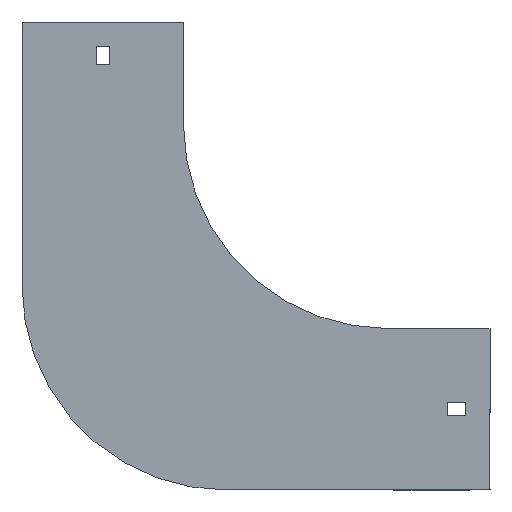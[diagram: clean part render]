
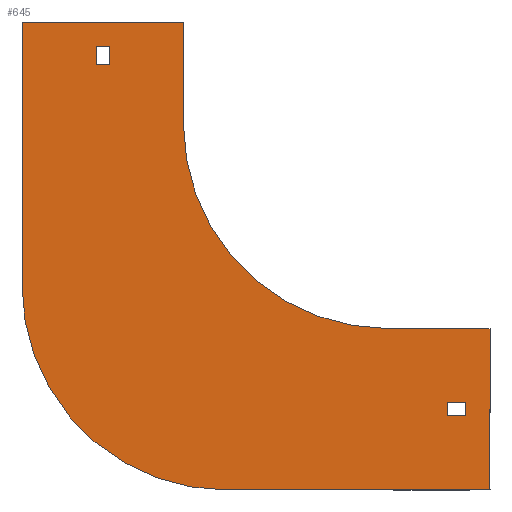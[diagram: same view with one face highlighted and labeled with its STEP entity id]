
A CAD part, front view. The second image highlights one B-rep face of the part: STEP entity #645.
In plain terms, the highlighted planar face has unit normal (0, -1, 0).
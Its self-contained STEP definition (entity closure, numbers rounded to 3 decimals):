
#20 = EDGE_CURVE ( 'NONE', #1036, #619, #1319, .T. ) ;
#39 = EDGE_CURVE ( 'NONE', #1360, #575, #488, .T. ) ;
#42 = CARTESIAN_POINT ( 'NONE',  ( -136.25, 0., 38. ) ) ;
#58 = EDGE_LOOP ( 'NONE', ( #970, #1779, #779, #1566, #672, #1644, #254, #1487 ) ) ;
#64 = ORIENTED_EDGE ( 'NONE', *, *, #295, .F. ) ;
#75 = PLANE ( 'NONE',  #1264 ) ;
#83 = FACE_BOUND ( 'NONE', #664, .T. ) ;
#88 = LINE ( 'NONE', #1423, #709 ) ;
#93 = AXIS2_PLACEMENT_3D ( 'NONE', #835, #1887, #1896 ) ;
#170 = EDGE_CURVE ( 'NONE', #1348, #888, #1445, .T. ) ;
#219 = CARTESIAN_POINT ( 'NONE',  ( 29., 0., -142.75 ) ) ;
#228 = EDGE_CURVE ( 'NONE', #619, #1009, #1726, .T. ) ;
#229 = FACE_OUTER_BOUND ( 'NONE', #58, .T. ) ;
#236 = EDGE_CURVE ( 'NONE', #521, #401, #1171, .T. ) ;
#254 = ORIENTED_EDGE ( 'NONE', *, *, #39, .F. ) ;
#261 = DIRECTION ( 'NONE',  ( 0., 0., -1. ) ) ;
#262 = VERTEX_POINT ( 'NONE', #1432 ) ;
#283 = VECTOR ( 'NONE', #315, 1000. ) ;
#295 = EDGE_CURVE ( 'NONE', #642, #262, #88, .T. ) ;
#315 = DIRECTION ( 'NONE',  ( -1., 0., 0. ) ) ;
#331 = DIRECTION ( 'NONE',  ( -1., 0., 0. ) ) ;
#340 = VECTOR ( 'NONE', #261, 1000. ) ;
#379 = DIRECTION ( 'NONE',  ( 0., 0., -1. ) ) ;
#396 = DIRECTION ( 'NONE',  ( 1., 0., 0. ) ) ;
#401 = VERTEX_POINT ( 'NONE', #1347 ) ;
#432 = VECTOR ( 'NONE', #1441, 1000. ) ;
#440 = CARTESIAN_POINT ( 'NONE',  ( -142.75, 0., 38. ) ) ;
#446 = LINE ( 'NONE', #1641, #1304 ) ;
#448 = VECTOR ( 'NONE', #1816, 1000. ) ;
#462 = CARTESIAN_POINT ( 'NONE',  ( -100., 0., 50. ) ) ;
#480 = ORIENTED_EDGE ( 'NONE', *, *, #916, .T. ) ;
#488 = CIRCLE ( 'NONE', #1551, 100. ) ;
#501 = ORIENTED_EDGE ( 'NONE', *, *, #1671, .T. ) ;
#521 = VERTEX_POINT ( 'NONE', #1215 ) ;
#527 = CARTESIAN_POINT ( 'NONE',  ( 38., 0., -136.25 ) ) ;
#533 = DIRECTION ( 'NONE',  ( -1., 0., 0. ) ) ;
#575 = VERTEX_POINT ( 'NONE', #1814 ) ;
#578 = ORIENTED_EDGE ( 'NONE', *, *, #20, .T. ) ;
#619 = VERTEX_POINT ( 'NONE', #42 ) ;
#630 = CARTESIAN_POINT ( 'NONE',  ( 50., 0., -100. ) ) ;
#632 = EDGE_CURVE ( 'NONE', #401, #1219, #1518, .T. ) ;
#633 = LINE ( 'NONE', #785, #1365 ) ;
#635 = CARTESIAN_POINT ( 'NONE',  ( -179., 0., -79. ) ) ;
#642 = VERTEX_POINT ( 'NONE', #219 ) ;
#645 = ADVANCED_FACE ( 'NONE', ( #83, #229, #1731 ), #75, .T. ) ;
#664 = EDGE_LOOP ( 'NONE', ( #501, #578, #1101, #480 ) ) ;
#672 = ORIENTED_EDGE ( 'NONE', *, *, #170, .F. ) ;
#709 = VECTOR ( 'NONE', #1716, 1000. ) ;
#717 = EDGE_CURVE ( 'NONE', #888, #521, #955, .T. ) ;
#731 = DIRECTION ( 'NONE',  ( 0., -1., 0. ) ) ;
#738 = CARTESIAN_POINT ( 'NONE',  ( 50., 0., -179. ) ) ;
#772 = CARTESIAN_POINT ( 'NONE',  ( -136.25, 0., 29. ) ) ;
#778 = EDGE_CURVE ( 'NONE', #1546, #1897, #1649, .T. ) ;
#779 = ORIENTED_EDGE ( 'NONE', *, *, #236, .F. ) ;
#785 = CARTESIAN_POINT ( 'NONE',  ( -142.75, 0., 29. ) ) ;
#790 = VECTOR ( 'NONE', #1234, 1000. ) ;
#835 = CARTESIAN_POINT ( 'NONE',  ( -79., 0., -79. ) ) ;
#838 = VECTOR ( 'NONE', #533, 1000. ) ;
#846 = CARTESIAN_POINT ( 'NONE',  ( 0., 0., -100. ) ) ;
#859 = CARTESIAN_POINT ( 'NONE',  ( 29., 0., -136.25 ) ) ;
#867 = EDGE_LOOP ( 'NONE', ( #1331, #64, #875, #1598 ) ) ;
#875 = ORIENTED_EDGE ( 'NONE', *, *, #1444, .F. ) ;
#877 = CARTESIAN_POINT ( 'NONE',  ( 0., 0., 0. ) ) ;
#888 = VERTEX_POINT ( 'NONE', #738 ) ;
#893 = CARTESIAN_POINT ( 'NONE',  ( -142.75, 0., 29. ) ) ;
#916 = EDGE_CURVE ( 'NONE', #1009, #1259, #633, .T. ) ;
#926 = CARTESIAN_POINT ( 'NONE',  ( -100., 0., 0. ) ) ;
#935 = CARTESIAN_POINT ( 'NONE',  ( 38., 0., -142.75 ) ) ;
#954 = VECTOR ( 'NONE', #1488, 1000. ) ;
#955 = LINE ( 'NONE', #1583, #838 ) ;
#970 = ORIENTED_EDGE ( 'NONE', *, *, #1730, .F. ) ;
#1007 = CARTESIAN_POINT ( 'NONE',  ( 29., 0., -142.75 ) ) ;
#1009 = VERTEX_POINT ( 'NONE', #772 ) ;
#1015 = VERTEX_POINT ( 'NONE', #462 ) ;
#1036 = VERTEX_POINT ( 'NONE', #1067 ) ;
#1067 = CARTESIAN_POINT ( 'NONE',  ( -142.75, 0., 38. ) ) ;
#1074 = VECTOR ( 'NONE', #1878, 1000. ) ;
#1075 = VECTOR ( 'NONE', #396, 1000. ) ;
#1099 = CARTESIAN_POINT ( 'NONE',  ( 0., 0., 0. ) ) ;
#1101 = ORIENTED_EDGE ( 'NONE', *, *, #228, .T. ) ;
#1171 = CIRCLE ( 'NONE', #93, 100. ) ;
#1208 = LINE ( 'NONE', #935, #448 ) ;
#1215 = CARTESIAN_POINT ( 'NONE',  ( -79., 0., -179. ) ) ;
#1219 = VERTEX_POINT ( 'NONE', #1509 ) ;
#1234 = DIRECTION ( 'NONE',  ( 1., 0., 0. ) ) ;
#1259 = VERTEX_POINT ( 'NONE', #1783 ) ;
#1262 = EDGE_CURVE ( 'NONE', #1015, #1360, #446, .T. ) ;
#1264 = AXIS2_PLACEMENT_3D ( 'NONE', #1099, #1429, #379 ) ;
#1276 = VECTOR ( 'NONE', #1507, 1000. ) ;
#1283 = CARTESIAN_POINT ( 'NONE',  ( 29., 0., -136.25 ) ) ;
#1304 = VECTOR ( 'NONE', #1326, 1000. ) ;
#1312 = LINE ( 'NONE', #846, #432 ) ;
#1319 = LINE ( 'NONE', #440, #1075 ) ;
#1326 = DIRECTION ( 'NONE',  ( 0., 0., -1. ) ) ;
#1331 = ORIENTED_EDGE ( 'NONE', *, *, #1817, .F. ) ;
#1347 = CARTESIAN_POINT ( 'NONE',  ( -179., 0., -79. ) ) ;
#1348 = VERTEX_POINT ( 'NONE', #630 ) ;
#1360 = VERTEX_POINT ( 'NONE', #926 ) ;
#1365 = VECTOR ( 'NONE', #331, 1000. ) ;
#1423 = CARTESIAN_POINT ( 'NONE',  ( 29., 0., -142.75 ) ) ;
#1429 = DIRECTION ( 'NONE',  ( 0., -1., 0. ) ) ;
#1432 = CARTESIAN_POINT ( 'NONE',  ( 38., 0., -142.75 ) ) ;
#1441 = DIRECTION ( 'NONE',  ( 1., 0., 0. ) ) ;
#1444 = EDGE_CURVE ( 'NONE', #1897, #642, #1590, .T. ) ;
#1445 = LINE ( 'NONE', #1781, #954 ) ;
#1487 = ORIENTED_EDGE ( 'NONE', *, *, #1262, .F. ) ;
#1488 = DIRECTION ( 'NONE',  ( 0., 0., -1. ) ) ;
#1507 = DIRECTION ( 'NONE',  ( 0., 0., 1. ) ) ;
#1509 = CARTESIAN_POINT ( 'NONE',  ( -179., 0., 50. ) ) ;
#1518 = LINE ( 'NONE', #635, #1741 ) ;
#1537 = EDGE_CURVE ( 'NONE', #575, #1348, #1312, .T. ) ;
#1546 = VERTEX_POINT ( 'NONE', #527 ) ;
#1551 = AXIS2_PLACEMENT_3D ( 'NONE', #877, #731, #1631 ) ;
#1566 = ORIENTED_EDGE ( 'NONE', *, *, #717, .F. ) ;
#1583 = CARTESIAN_POINT ( 'NONE',  ( 50., 0., -179. ) ) ;
#1590 = LINE ( 'NONE', #1007, #1074 ) ;
#1598 = ORIENTED_EDGE ( 'NONE', *, *, #778, .F. ) ;
#1631 = DIRECTION ( 'NONE',  ( 0., 0., -1. ) ) ;
#1641 = CARTESIAN_POINT ( 'NONE',  ( -100., 0., 50. ) ) ;
#1644 = ORIENTED_EDGE ( 'NONE', *, *, #1537, .F. ) ;
#1645 = LINE ( 'NONE', #893, #1276 ) ;
#1649 = LINE ( 'NONE', #859, #283 ) ;
#1671 = EDGE_CURVE ( 'NONE', #1259, #1036, #1645, .T. ) ;
#1693 = LINE ( 'NONE', #1825, #790 ) ;
#1716 = DIRECTION ( 'NONE',  ( 1., 0., 0. ) ) ;
#1726 = LINE ( 'NONE', #1747, #340 ) ;
#1730 = EDGE_CURVE ( 'NONE', #1219, #1015, #1693, .T. ) ;
#1731 = FACE_BOUND ( 'NONE', #867, .T. ) ;
#1741 = VECTOR ( 'NONE', #1823, 1000. ) ;
#1747 = CARTESIAN_POINT ( 'NONE',  ( -136.25, 0., 29. ) ) ;
#1779 = ORIENTED_EDGE ( 'NONE', *, *, #632, .F. ) ;
#1781 = CARTESIAN_POINT ( 'NONE',  ( 50., 0., -100. ) ) ;
#1783 = CARTESIAN_POINT ( 'NONE',  ( -142.75, 0., 29. ) ) ;
#1814 = CARTESIAN_POINT ( 'NONE',  ( 0., 0., -100. ) ) ;
#1816 = DIRECTION ( 'NONE',  ( 0., 0., 1. ) ) ;
#1817 = EDGE_CURVE ( 'NONE', #262, #1546, #1208, .T. ) ;
#1823 = DIRECTION ( 'NONE',  ( 0., 0., 1. ) ) ;
#1825 = CARTESIAN_POINT ( 'NONE',  ( -179., 0., 50. ) ) ;
#1878 = DIRECTION ( 'NONE',  ( 0., 0., -1. ) ) ;
#1887 = DIRECTION ( 'NONE',  ( 0., 1., 0. ) ) ;
#1896 = DIRECTION ( 'NONE',  ( 0., 0., 1. ) ) ;
#1897 = VERTEX_POINT ( 'NONE', #1283 ) ;
